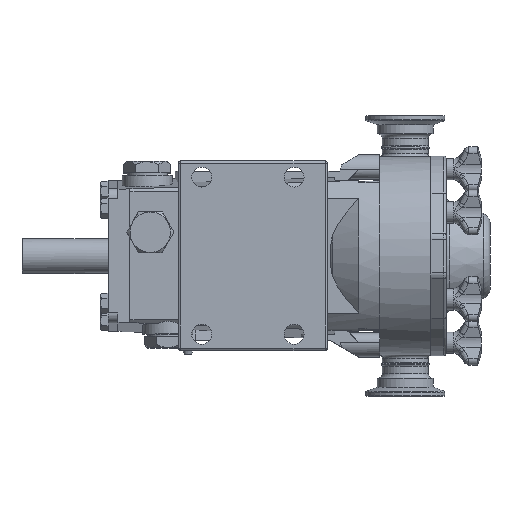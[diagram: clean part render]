
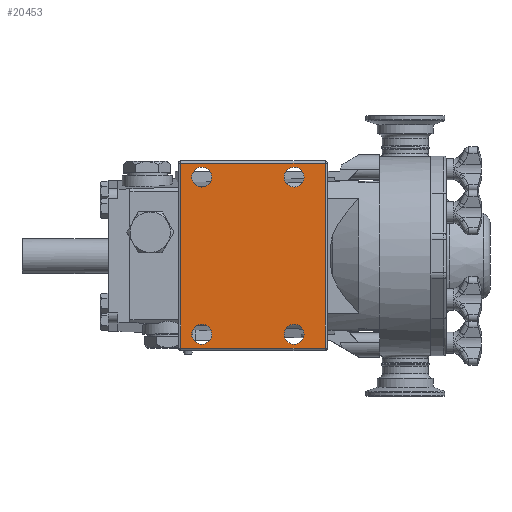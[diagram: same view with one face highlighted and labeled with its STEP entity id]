
A CAD part, top view. The second image highlights one B-rep face of the part: STEP entity #20453.
In plain terms, the highlighted planar face has unit normal (0, 0, 1).
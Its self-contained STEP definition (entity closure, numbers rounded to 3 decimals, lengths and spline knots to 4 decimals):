
#1441=FACE_BOUND('',#3330,.T.);
#1442=FACE_BOUND('',#3331,.T.);
#1443=FACE_BOUND('',#3332,.T.);
#1444=FACE_BOUND('',#3333,.T.);
#2063=FACE_OUTER_BOUND('',#3329,.T.);
#3329=EDGE_LOOP('',(#15495,#15496,#15497,#15498));
#3330=EDGE_LOOP('',(#15499));
#3331=EDGE_LOOP('',(#15500));
#3332=EDGE_LOOP('',(#15501));
#3333=EDGE_LOOP('',(#15502));
#4412=LINE('',#42758,#6120);
#4415=LINE('',#42770,#6123);
#4511=LINE('',#43477,#6219);
#4512=LINE('',#43478,#6220);
#6120=VECTOR('',#24448,3.62);
#6123=VECTOR('',#24459,3.62);
#6219=VECTOR('',#24703,4.63);
#6220=VECTOR('',#24704,4.63);
#7940=CIRCLE('',#21890,0.25);
#7941=CIRCLE('',#21892,0.25);
#7946=CIRCLE('',#21900,0.25);
#7947=CIRCLE('',#21902,0.25);
#8811=VERTEX_POINT('',#42746);
#8812=VERTEX_POINT('',#42750);
#8814=VERTEX_POINT('',#42755);
#8815=VERTEX_POINT('',#42757);
#8817=VERTEX_POINT('',#42763);
#8820=VERTEX_POINT('',#42768);
#8821=VERTEX_POINT('',#42772);
#8822=VERTEX_POINT('',#42776);
#11177=EDGE_CURVE('',#8811,#8811,#7940,.T.);
#11179=EDGE_CURVE('',#8812,#8812,#7941,.T.);
#11182=EDGE_CURVE('',#8815,#8814,#4412,.T.);
#11188=EDGE_CURVE('',#8817,#8820,#4415,.F.);
#11189=EDGE_CURVE('',#8821,#8821,#7946,.T.);
#11191=EDGE_CURVE('',#8822,#8822,#7947,.T.);
#11336=EDGE_CURVE('',#8814,#8817,#4511,.F.);
#11337=EDGE_CURVE('',#8820,#8815,#4512,.T.);
#15495=ORIENTED_EDGE('',*,*,#11336,.T.);
#15496=ORIENTED_EDGE('',*,*,#11188,.T.);
#15497=ORIENTED_EDGE('',*,*,#11337,.T.);
#15498=ORIENTED_EDGE('',*,*,#11182,.T.);
#15499=ORIENTED_EDGE('',*,*,#11191,.T.);
#15500=ORIENTED_EDGE('',*,*,#11189,.T.);
#15501=ORIENTED_EDGE('',*,*,#11179,.T.);
#15502=ORIENTED_EDGE('',*,*,#11177,.T.);
#19405=PLANE('',#21972);
#20453=ADVANCED_FACE('',(#2063,#1441,#1442,#1443,#1444),#19405,.T.);
#21890=AXIS2_PLACEMENT_3D('',#42747,#24436,#24437);
#21892=AXIS2_PLACEMENT_3D('',#42751,#24441,#24442);
#21900=AXIS2_PLACEMENT_3D('',#42773,#24462,#24463);
#21902=AXIS2_PLACEMENT_3D('',#42777,#24467,#24468);
#21972=AXIS2_PLACEMENT_3D('',#43476,#24701,#24702);
#24436=DIRECTION('center_axis',(0.,0.,
-1.));
#24437=DIRECTION('ref_axis',(-1.,0.,0.));
#24441=DIRECTION('center_axis',(0.,0.,
-1.));
#24442=DIRECTION('ref_axis',(-1.,0.,0.));
#24448=DIRECTION('',(-1.,0.,0.));
#24459=DIRECTION('',(-1.,0.,0.));
#24462=DIRECTION('center_axis',(0.,0.,
-1.));
#24463=DIRECTION('ref_axis',(-1.,0.,0.));
#24467=DIRECTION('center_axis',(0.,0.,
-1.));
#24468=DIRECTION('ref_axis',(-1.,0.,0.));
#24701=DIRECTION('center_axis',(0.,0.,
1.));
#24702=DIRECTION('ref_axis',(1.,0.,0.));
#24703=DIRECTION('',(0.,1.,0.));
#24704=DIRECTION('',(0.,1.,0.));
#42746=CARTESIAN_POINT('',(-1.898,1.969,4.213));
#42747=CARTESIAN_POINT('Origin',(-2.148,1.969,4.213));
#42750=CARTESIAN_POINT('',(-4.21,1.969,4.213));
#42751=CARTESIAN_POINT('Origin',(-4.46,1.969,4.213));
#42755=CARTESIAN_POINT('',(-4.99,2.315,4.213));
#42757=CARTESIAN_POINT('',(-1.37,2.315,4.213));
#42758=CARTESIAN_POINT('',(-1.37,2.315,4.213));
#42763=CARTESIAN_POINT('',(-4.99,-2.315,4.213));
#42768=CARTESIAN_POINT('',(-1.37,-2.315,4.213));
#42770=CARTESIAN_POINT('',(-1.37,-2.315,4.213));
#42772=CARTESIAN_POINT('',(-4.21,-1.969,4.213));
#42773=CARTESIAN_POINT('Origin',(-4.46,-1.969,4.213));
#42776=CARTESIAN_POINT('',(-1.898,-1.969,4.213));
#42777=CARTESIAN_POINT('Origin',(-2.148,-1.969,4.213));
#43476=CARTESIAN_POINT('Origin',(-1.31,-2.375,4.213));
#43477=CARTESIAN_POINT('',(-4.99,-2.315,4.213));
#43478=CARTESIAN_POINT('',(-1.37,-2.315,4.213));
